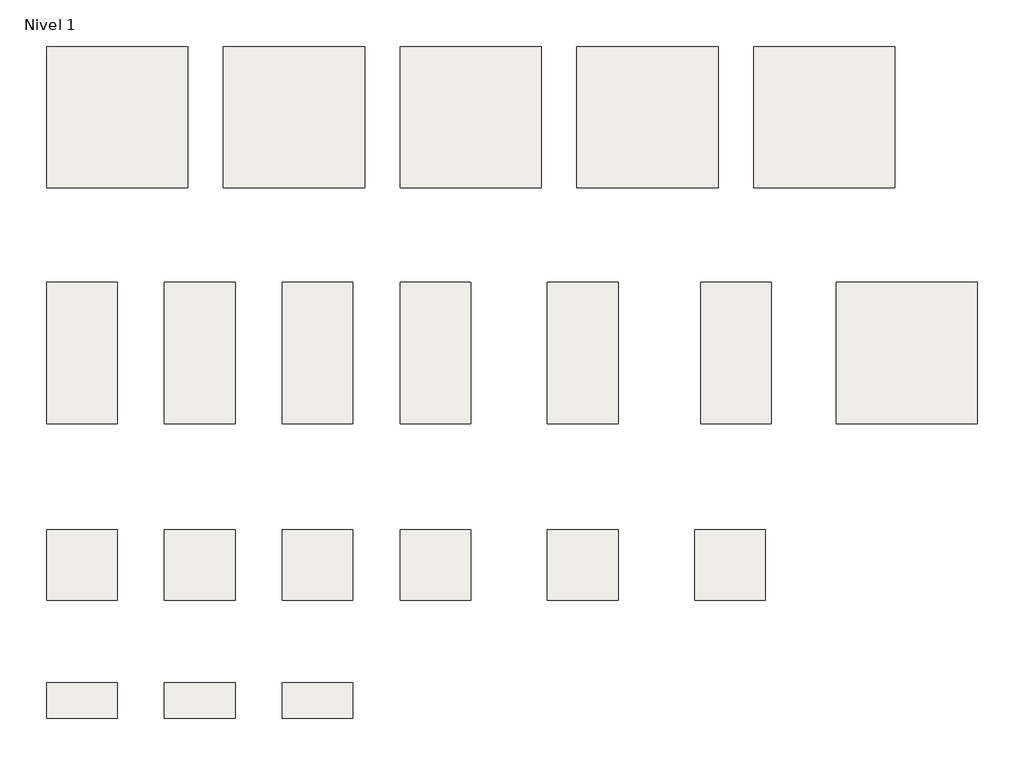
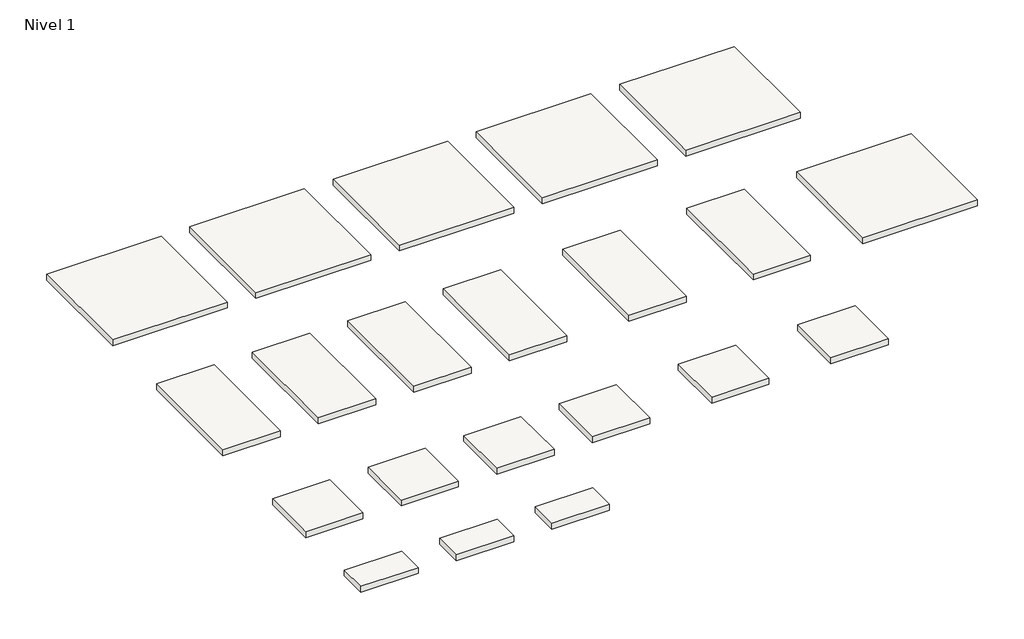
# One storey: 21 slabs.
"""IFC4 building model written with IfcOpenShell, lengths in millimetres."""

from ifc_helpers import new_model, si_unit, frame, origin, place, context, project, spatial, polyline, outline, extrude, element, save

model = new_model("IFC4")

# Units and contexts
model_context = context("Model", 3, world=origin())
ifc_project = project(units=[si_unit("LENGTHUNIT", "METRE", prefix="MILLI")], contexts=[model_context])

# Site, building, storey
site = spatial("IfcSite", under=ifc_project)
building = spatial("IfcBuilding", under=site)
storey = spatial("IfcBuildingStorey", under=building, Name="Nivel 1", Elevation=0.0)

# Slabs
placement = place(None, origin())
element("IfcSlab", 1, ObjectType="Arles Arena 120X120", at=placement, inside=storey, context=model_context, shape_type="SweptSolid", body=[
    extrude(outline(polyline([(0.0, 1200.0), (1200.0, 1200.0), (1200.0, 0.0), (0.0, 0.0), (0.0, 1200.0)])), frame((0.0, 0.0, -65.0), z_axis=(0.0, 0.0, 1.0), x_axis=(1.0, 0.0, 0.0)), (0.0, 0.0, 1.0), 65.0),
])
element("IfcSlab", 2, ObjectType="Arles Blanco 120X120", at=placement, inside=storey, context=model_context, shape_type="SweptSolid", body=[
    extrude(outline(polyline([(1500.0, 1200.0), (2700.0, 1200.0), (2700.0, 0.0), (1500.0, 0.0), (1500.0, 1200.0)])), frame((0.0, 0.0, -65.0), z_axis=(0.0, 0.0, 1.0), x_axis=(1.0, 0.0, 0.0)), (0.0, 0.0, 1.0), 65.0),
])
element("IfcSlab", 3, ObjectType="Arles Gris 120X120", at=placement, inside=storey, context=model_context, shape_type="SweptSolid", body=[
    extrude(outline(polyline([(3000.0, 1200.0), (4200.0, 1200.0), (4200.0, 0.0), (3000.0, 0.0), (3000.0, 1200.0)])), frame((0.0, 0.0, -65.0), z_axis=(0.0, 0.0, 1.0), x_axis=(1.0, 0.0, 0.0)), (0.0, 0.0, 1.0), 65.0),
])
element("IfcSlab", 4, ObjectType="Arles Antislip Arena 120X120", at=placement, inside=storey, context=model_context, shape_type="SweptSolid", body=[
    extrude(outline(polyline([(4500.0, 1200.0), (5700.0, 1200.0), (5700.0, 0.0), (4500.0, 0.0), (4500.0, 1200.0)])), frame((0.0, 0.0, -65.0), z_axis=(0.0, 0.0, 1.0), x_axis=(1.0, 0.0, 0.0)), (0.0, 0.0, 1.0), 65.0),
])
element("IfcSlab", 5, ObjectType="Arles Antislip Blanco 120X120", at=placement, inside=storey, context=model_context, shape_type="SweptSolid", body=[
    extrude(outline(polyline([(6000.0, 1200.0), (7200.0, 1200.0), (7200.0, 0.0), (6000.0, 0.0), (6000.0, 1200.0)])), frame((0.0, 0.0, -65.0), z_axis=(0.0, 0.0, 1.0), x_axis=(1.0, 0.0, 0.0)), (0.0, 0.0, 1.0), 65.0),
])
element("IfcSlab", 6, ObjectType="Arles Antislip Gris 120X120", at=placement, inside=storey, context=model_context, shape_type="SweptSolid", body=[
    extrude(outline(polyline([(6700.0, -800.0), (7900.0, -800.0), (7900.0, -2000.0), (6700.0, -2000.0), (6700.0, -800.0)])), frame((0.0, 0.0, -65.0), z_axis=(0.0, 0.0, 1.0), x_axis=(1.0, 0.0, 0.0)), (0.0, 0.0, 1.0), 65.0),
])
element("IfcSlab", 7, ObjectType="Arles Arena 60X120", at=placement, inside=storey, context=model_context, shape_type="SweptSolid", body=[
    extrude(outline(polyline([(0.0, -800.0), (600.0, -800.0), (600.0, -2000.0), (0.0, -2000.0), (0.0, -800.0)])), frame((0.0, 0.0, -66.3), z_axis=(0.0, 0.0, 1.0), x_axis=(1.0, 0.0, 0.0)), (0.0, 0.0, 1.0), 66.3),
])
element("IfcSlab", 8, ObjectType="Arles Blanco 60X120", at=placement, inside=storey, context=model_context, shape_type="SweptSolid", body=[
    extrude(outline(polyline([(1000.0, -800.0), (1600.0, -800.0), (1600.0, -2000.0), (1000.0, -2000.0), (1000.0, -800.0)])), frame((0.0, 0.0, -66.3), z_axis=(0.0, 0.0, 1.0), x_axis=(1.0, 0.0, 0.0)), (0.0, 0.0, 1.0), 66.3),
])
element("IfcSlab", 9, ObjectType="Arles Gris 60X120", at=placement, inside=storey, context=model_context, shape_type="SweptSolid", body=[
    extrude(outline(polyline([(2000.0, -800.0), (2600.0, -800.0), (2600.0, -2000.0), (2000.0, -2000.0), (2000.0, -800.0)])), frame((0.0, 0.0, -66.3), z_axis=(0.0, 0.0, 1.0), x_axis=(1.0, 0.0, 0.0)), (0.0, 0.0, 1.0), 66.3),
])
element("IfcSlab", 10, ObjectType="Arles Antislip Arena 60X120", at=placement, inside=storey, context=model_context, shape_type="SweptSolid", body=[
    extrude(outline(polyline([(3000.0, -800.0), (3600.0, -800.0), (3600.0, -2000.0), (3000.0, -2000.0), (3000.0, -800.0)])), frame((0.0, 0.0, -65.0), z_axis=(0.0, 0.0, 1.0), x_axis=(1.0, 0.0, 0.0)), (0.0, 0.0, 1.0), 65.0),
])
element("IfcSlab", 11, ObjectType="Arles Antislip Blanco 60X120", at=placement, inside=storey, context=model_context, shape_type="SweptSolid", body=[
    extrude(outline(polyline([(4250.0, -800.0), (4850.0, -800.0), (4850.0, -2000.0), (4250.0, -2000.0), (4250.0, -800.0)])), frame((0.0, 0.0, -65.0), z_axis=(0.0, 0.0, 1.0), x_axis=(1.0, 0.0, 0.0)), (0.0, 0.0, 1.0), 65.0),
])
element("IfcSlab", 12, ObjectType="Arles Antislip Gris 60X120", at=placement, inside=storey, context=model_context, shape_type="SweptSolid", body=[
    extrude(outline(polyline([(5550.0, -800.0), (6150.0, -800.0), (6150.0, -2000.0), (5550.0, -2000.0), (5550.0, -800.0)])), frame((0.0, 0.0, -65.0), z_axis=(0.0, 0.0, 1.0), x_axis=(1.0, 0.0, 0.0)), (0.0, 0.0, 1.0), 65.0),
])
element("IfcSlab", 13, ObjectType="Arles Arena 60X60", at=placement, inside=storey, context=model_context, shape_type="SweptSolid", body=[
    extrude(outline(polyline([(0.0, -2900.0), (600.0, -2900.0), (600.0, -3500.0), (0.0, -3500.0), (0.0, -2900.0)])), frame((0.0, 0.0, -65.0), z_axis=(0.0, 0.0, 1.0), x_axis=(1.0, 0.0, 0.0)), (0.0, 0.0, 1.0), 65.0),
])
element("IfcSlab", 14, ObjectType="Arles Blanco 60X60", at=placement, inside=storey, context=model_context, shape_type="SweptSolid", body=[
    extrude(outline(polyline([(1000.0, -2900.0), (1600.0, -2900.0), (1600.0, -3500.0), (1000.0, -3500.0), (1000.0, -2900.0)])), frame((0.0, 0.0, -65.0), z_axis=(0.0, 0.0, 1.0), x_axis=(1.0, 0.0, 0.0)), (0.0, 0.0, 1.0), 65.0),
])
element("IfcSlab", 15, ObjectType="Arles Gris 60X60", at=placement, inside=storey, context=model_context, shape_type="SweptSolid", body=[
    extrude(outline(polyline([(2000.0, -2900.0), (2600.0, -2900.0), (2600.0, -3500.0), (2000.0, -3500.0), (2000.0, -2900.0)])), frame((0.0, 0.0, -65.0), z_axis=(0.0, 0.0, 1.0), x_axis=(1.0, 0.0, 0.0)), (0.0, 0.0, 1.0), 65.0),
])
element("IfcSlab", 16, ObjectType="Arles Antislip Arena 60X60", at=placement, inside=storey, context=model_context, shape_type="SweptSolid", body=[
    extrude(outline(polyline([(3000.0, -2900.0), (3600.0, -2900.0), (3600.0, -3500.0), (3000.0, -3500.0), (3000.0, -2900.0)])), frame((0.0, 0.0, -65.0), z_axis=(0.0, 0.0, 1.0), x_axis=(1.0, 0.0, 0.0)), (0.0, 0.0, 1.0), 65.0),
])
element("IfcSlab", 17, ObjectType="Arles Antislip Blanco 60X60", at=placement, inside=storey, context=model_context, shape_type="SweptSolid", body=[
    extrude(outline(polyline([(4250.0, -2900.0), (4850.0, -2900.0), (4850.0, -3500.0), (4250.0, -3500.0), (4250.0, -2900.0)])), frame((0.0, 0.0, -65.0), z_axis=(0.0, 0.0, 1.0), x_axis=(1.0, 0.0, 0.0)), (0.0, 0.0, 1.0), 65.0),
])
element("IfcSlab", 18, ObjectType="Arles Antislip Gris 60X60", at=placement, inside=storey, context=model_context, shape_type="SweptSolid", body=[
    extrude(outline(polyline([(5500.0, -2900.0), (6100.0, -2900.0), (6100.0, -3500.0), (5500.0, -3500.0), (5500.0, -2900.0)])), frame((0.0, 0.0, -65.0), z_axis=(0.0, 0.0, 1.0), x_axis=(1.0, 0.0, 0.0)), (0.0, 0.0, 1.0), 65.0),
])
element("IfcSlab", 19, ObjectType="Arles Arena 30X60", at=placement, inside=storey, context=model_context, shape_type="SweptSolid", body=[
    extrude(outline(polyline([(0.0, -4200.0), (600.0, -4200.0), (600.0, -4500.0), (0.0, -4500.0), (0.0, -4200.0)])), frame((0.0, 0.0, -65.0), z_axis=(0.0, 0.0, 1.0), x_axis=(1.0, 0.0, 0.0)), (0.0, 0.0, 1.0), 65.0),
])
element("IfcSlab", 20, ObjectType="Arles Blanco 30X60", at=placement, inside=storey, context=model_context, shape_type="SweptSolid", body=[
    extrude(outline(polyline([(1000.0, -4200.0), (1600.0, -4200.0), (1600.0, -4500.0), (1000.0, -4500.0), (1000.0, -4200.0)])), frame((0.0, 0.0, -65.0), z_axis=(0.0, 0.0, 1.0), x_axis=(1.0, 0.0, 0.0)), (0.0, 0.0, 1.0), 65.0),
])
element("IfcSlab", 21, ObjectType="Arles Gris 30X60", at=placement, inside=storey, context=model_context, shape_type="SweptSolid", body=[
    extrude(outline(polyline([(2000.0, -4200.0), (2600.0, -4200.0), (2600.0, -4500.0), (2000.0, -4500.0), (2000.0, -4200.0)])), frame((0.0, 0.0, -65.0), z_axis=(0.0, 0.0, 1.0), x_axis=(1.0, 0.0, 0.0)), (0.0, 0.0, 1.0), 65.0),
])

save(model, "model.ifc")
